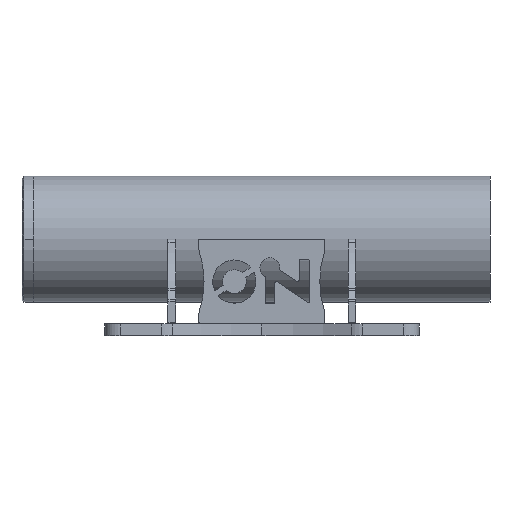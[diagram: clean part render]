
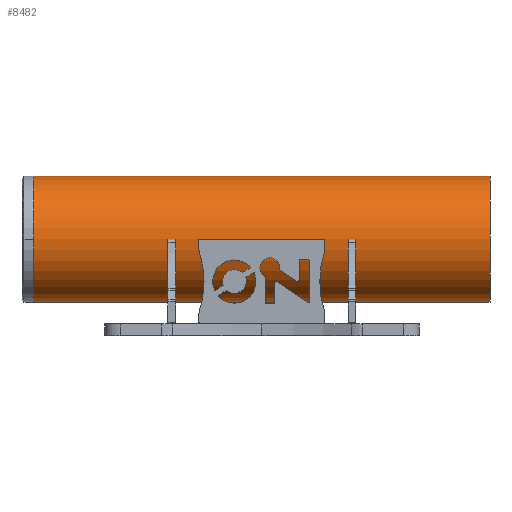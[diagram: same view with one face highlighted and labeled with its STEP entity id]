
A CAD part, left-side view. The second image highlights one B-rep face of the part: STEP entity #8482.
In plain terms, the highlighted cylindrical face has radius 50.8 mm (diameter 101.6 mm), a partial arc.
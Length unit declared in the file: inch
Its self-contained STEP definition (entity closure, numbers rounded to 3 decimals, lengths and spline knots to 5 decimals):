
#201 = EDGE_CURVE ( 'NONE', #1653, #4337, #8219, .T. ) ;
#464 = CARTESIAN_POINT ( 'NONE',  ( 2., 0., 0. ) ) ;
#924 = DIRECTION ( 'NONE',  ( 1., 0., 0. ) ) ;
#1362 = DIRECTION ( 'NONE',  ( 1., 0., 0. ) ) ;
#1608 = CARTESIAN_POINT ( 'NONE',  ( 2., 0., 14.5 ) ) ;
#1622 = AXIS2_PLACEMENT_3D ( 'NONE', #5146, #5191, #7511 ) ;
#1653 = VERTEX_POINT ( 'NONE', #4706 ) ;
#1710 = DIRECTION ( 'NONE',  ( 0., 0., -1. ) ) ;
#2092 = ORIENTED_EDGE ( 'NONE', *, *, #6491, .F. ) ;
#2361 = LINE ( 'NONE', #1608, #4411 ) ;
#2364 = ORIENTED_EDGE ( 'NONE', *, *, #4220, .T. ) ;
#2566 = CARTESIAN_POINT ( 'NONE',  ( 0., 0., 0. ) ) ;
#2969 = AXIS2_PLACEMENT_3D ( 'NONE', #4447, #9914, #1362 ) ;
#3244 = DIRECTION ( 'NONE',  ( 0., 0., 1. ) ) ;
#3479 = CARTESIAN_POINT ( 'NONE',  ( -2., 0., 14.5 ) ) ;
#3651 = ORIENTED_EDGE ( 'NONE', *, *, #201, .T. ) ;
#3753 = FACE_OUTER_BOUND ( 'NONE', #4378, .T. ) ;
#4154 = ORIENTED_EDGE ( 'NONE', *, *, #8272, .F. ) ;
#4220 = EDGE_CURVE ( 'NONE', #4337, #8433, #9544, .T. ) ;
#4319 = CYLINDRICAL_SURFACE ( 'NONE', #1622, 2. ) ;
#4337 = VERTEX_POINT ( 'NONE', #7510 ) ;
#4378 = EDGE_LOOP ( 'NONE', ( #4154, #2092, #3651, #2364 ) ) ;
#4411 = VECTOR ( 'NONE', #1710, 39.37008 ) ;
#4447 = CARTESIAN_POINT ( 'NONE',  ( 0., 0., 14.5 ) ) ;
#4612 = CIRCLE ( 'NONE', #2969, 2. ) ;
#4706 = CARTESIAN_POINT ( 'NONE',  ( -2., 0., 14.5 ) ) ;
#4770 = VERTEX_POINT ( 'NONE', #8022 ) ;
#5086 = AXIS2_PLACEMENT_3D ( 'NONE', #2566, #3244, #924 ) ;
#5146 = CARTESIAN_POINT ( 'NONE',  ( 0., 0., 14.5 ) ) ;
#5191 = DIRECTION ( 'NONE',  ( 0., 0., -1. ) ) ;
#5741 = DIRECTION ( 'NONE',  ( 0., 0., -1. ) ) ;
#6491 = EDGE_CURVE ( 'NONE', #1653, #4770, #4612, .T. ) ;
#7510 = CARTESIAN_POINT ( 'NONE',  ( -2., 0., 0. ) ) ;
#7511 = DIRECTION ( 'NONE',  ( -1., 0., 0. ) ) ;
#8022 = CARTESIAN_POINT ( 'NONE',  ( 2., 0., 14.5 ) ) ;
#8219 = LINE ( 'NONE', #3479, #10118 ) ;
#8272 = EDGE_CURVE ( 'NONE', #4770, #8433, #2361, .T. ) ;
#8433 = VERTEX_POINT ( 'NONE', #464 ) ;
#8482 = ADVANCED_FACE ( 'NONE', ( #3753 ), #4319, .T. ) ;
#9544 = CIRCLE ( 'NONE', #5086, 2. ) ;
#9914 = DIRECTION ( 'NONE',  ( 0., 0., 1. ) ) ;
#10118 = VECTOR ( 'NONE', #5741, 39.37008 ) ;
